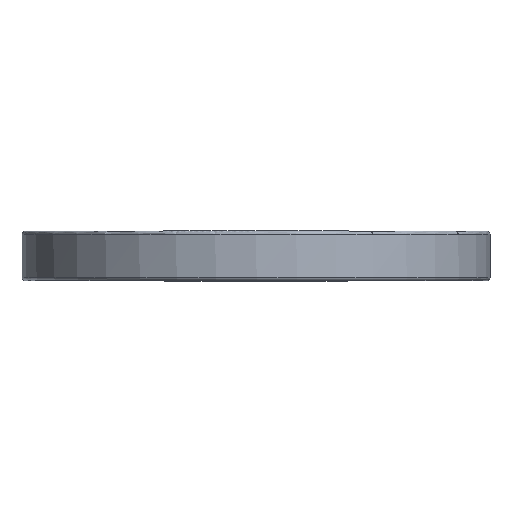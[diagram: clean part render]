
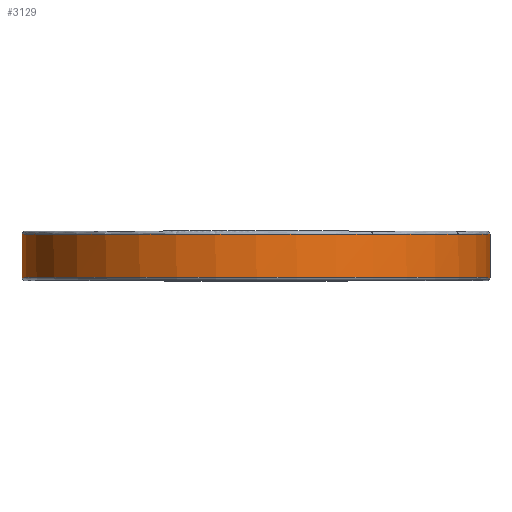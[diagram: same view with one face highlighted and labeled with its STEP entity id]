
A CAD part, top view. The second image highlights one B-rep face of the part: STEP entity #3129.
In plain terms, the highlighted cylindrical face has radius 190 mm (diameter 380 mm), a partial arc.
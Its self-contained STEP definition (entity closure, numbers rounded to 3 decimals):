
#2413=VERTEX_POINT('',#6675);
#2485=VERTEX_POINT('',#6752);
#2839=VERTEX_POINT('',#7141);
#3057=EDGE_CURVE('',#2839,#2485,#7387,.T.);
#3129=ADVANCED_FACE('',(#7466),#7467,.T.);
#3845=VERTEX_POINT('',#8263);
#3987=EDGE_CURVE('',#3845,#4589,#8423,.T.);
#4289=EDGE_CURVE('',#2413,#3845,#8777,.T.);
#4425=EDGE_CURVE('',#6375,#2485,#8936,.T.);
#4589=VERTEX_POINT('',#9120);
#6117=EDGE_CURVE('',#2839,#2413,#10830,.T.);
#6209=EDGE_CURVE('',#4589,#6375,#10928,.T.);
#6375=VERTEX_POINT('',#11112);
#6675=CARTESIAN_POINT('',(-189.996,2.5,1.177));
#6752=CARTESIAN_POINT('',(190.0,37.5,0.));
#7141=CARTESIAN_POINT('',(190.0,2.5,0.));
#7387=LINE('',#12395,#12396);
#7466=FACE_OUTER_BOUND('',#12498,.T.);
#7467=CYLINDRICAL_SURFACE('',#12499,190.0);
#8263=CARTESIAN_POINT('',(-190.0,2.5,0.));
#8423=LINE('',#13747,#13748);
#8777=CIRCLE('',#14198,190.0);
#8936=CIRCLE('',#14392,190.0);
#9120=CARTESIAN_POINT('',(-190.0,37.5,0.));
#10830=CIRCLE('',#16828,190.0);
#10928=CIRCLE('',#16961,190.0);
#11112=CARTESIAN_POINT('',(189.998,37.5,0.829));
#12395=CARTESIAN_POINT('',(190.0,2.5,0.));
#12396=VECTOR('',#18321,35.0);
#12498=EDGE_LOOP('',(#18424,#18425,#18426,#18427,#18428,#18429));
#12499=AXIS2_PLACEMENT_3D('',#18430,#18431,#18432);
#13747=CARTESIAN_POINT('',(-190.0,2.5,0.));
#13748=VECTOR('',#19650,35.0);
#14198=AXIS2_PLACEMENT_3D('',#20191,#20192,#20193);
#14392=AXIS2_PLACEMENT_3D('',#20441,#20442,#20443);
#16828=AXIS2_PLACEMENT_3D('',#22982,#22983,#22984);
#16961=AXIS2_PLACEMENT_3D('',#23092,#23093,#23094);
#18321=DIRECTION('',(0.0,1.0,0.));
#18424=ORIENTED_EDGE('',*,*,#3987,.F.);
#18425=ORIENTED_EDGE('',*,*,#4289,.F.);
#18426=ORIENTED_EDGE('',*,*,#6117,.F.);
#18427=ORIENTED_EDGE('',*,*,#3057,.T.);
#18428=ORIENTED_EDGE('',*,*,#4425,.F.);
#18429=ORIENTED_EDGE('',*,*,#6209,.F.);
#18430=CARTESIAN_POINT('',(0.0,0.0,0.0));
#18431=DIRECTION('',(-0.0,1.0,-0.0));
#18432=DIRECTION('',(1.0,0.0,0.0));
#19650=DIRECTION('',(0.0,1.0,0.));
#20191=CARTESIAN_POINT('',(0.0,2.5,0.0));
#20192=DIRECTION('',(0.0,-1.0,0.0));
#20193=DIRECTION('',(1.0,0.0,0.0));
#20441=CARTESIAN_POINT('',(0.0,37.5,0.0));
#20442=DIRECTION('',(0.0,1.0,0.0));
#20443=DIRECTION('',(-1.0,0.0,0.0));
#22982=CARTESIAN_POINT('',(0.0,2.5,0.0));
#22983=DIRECTION('',(0.0,-1.0,0.0));
#22984=DIRECTION('',(1.0,0.0,0.0));
#23092=CARTESIAN_POINT('',(0.0,37.5,0.0));
#23093=DIRECTION('',(0.0,1.0,0.0));
#23094=DIRECTION('',(-1.0,0.0,0.0));
